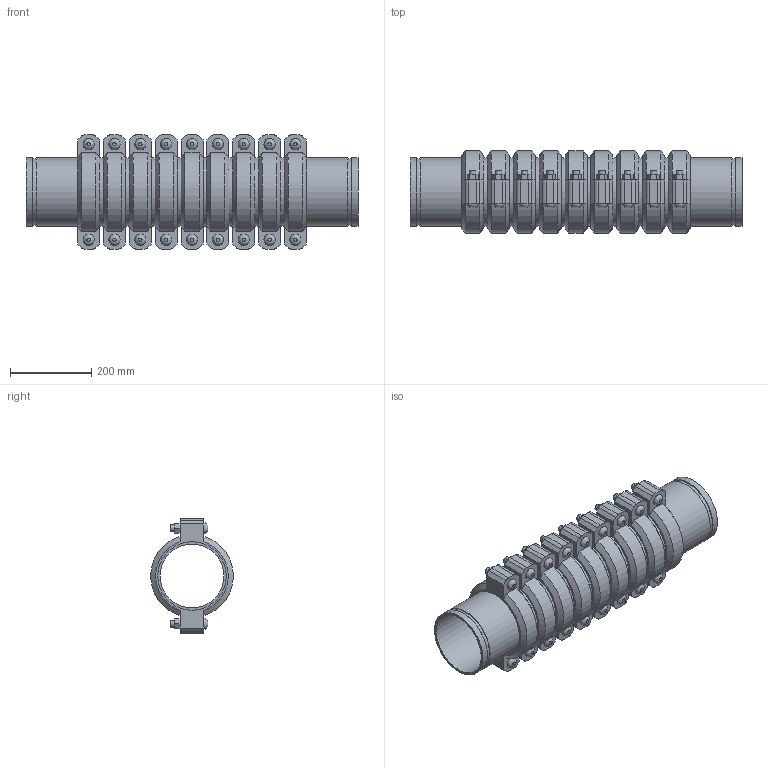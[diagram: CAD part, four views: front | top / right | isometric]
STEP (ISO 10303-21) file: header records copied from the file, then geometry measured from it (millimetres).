
FILE_DESCRIPTION(/* description */ ('VIC SS EXPANSION JOINT 9 COUPLINGS NEUTRAL STYLE 155P (OGS) (POTABLE WATER) ','CAx-IF Rec.Pracs.---Representation and Presentation of Product Manufacturing Information (PMI)---4.0---2014-10-13'),/* implementation_level */ '2;1');
FILE_NAME(/* name */ 'C:\Users\kkamble\AppData\Roaming\Autodesk\ApplicationPlugins\Victaulic.Temp\A561\Victaulic_SS_Expansion Joint_Neutral_9 Couplings_Style 155P (OGS)-Potable Water_9 Coup_Neut_6 (150).stp',/* time_stamp */ '2021-07-16T16:40:06+05:00',/* author */ ('kkamble'),/* organization */ ('Victaulic'),/* preprocessor_version */ 'ST-DEVELOPER v17.2',/* originating_system */ 'Autodesk Inventor 2019',/* authorisation */ '');
FILE_SCHEMA (('AP242_MANAGED_MODEL_BASED_3D_ENGINEERING_MIM_LF { 1 0 10303 442 1 1 4 }'));
Length unit declared in the file: inch
Products named in the file (4): 155P-06.0; Nipple-06.0; Nipple-06.0_1; 075-06.0
Assembly tree (19 placements, depth 2):
  155P-06.0
    Nipple-06.0  x2
    Nipple-06.0_1  x8
    075-06.0  x9
Bounding box: 816.36 x 202.46 x 281.18 mm (x, y, z)
Volume: 8822593.1 mm3; surface area: 1924139.6 mm2
Topology: 19 solids, 37 shells, 633 faces, 1497 edges, 1050 vertices
Faces by surface type: plane 384, cylinder 195, cone 36, bspline 18
Full cylindrical faces by diameter (mm): 15.875 x36, 17.424 x18, 157.15 x10, 161.925 x9, 163.957 x20, 168.275 x48
Entity records: 2865 total; most frequent: CARTESIAN_POINT 503, DIRECTION 481, ORIENTED_EDGE 386, AXIS2_PLACEMENT_3D 194, EDGE_CURVE 193, VERTEX_POINT 138, EDGE_LOOP 107, LINE 93
